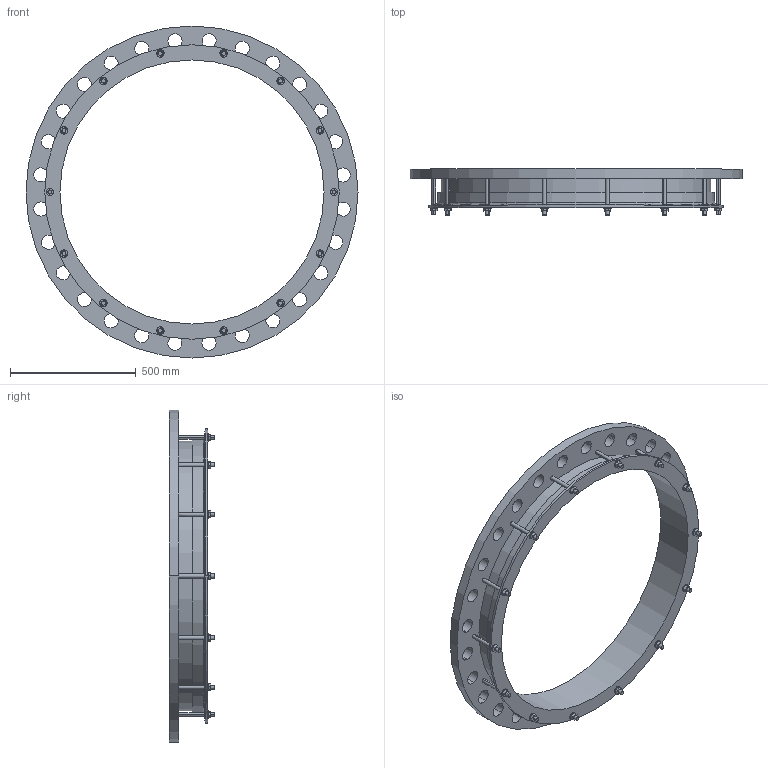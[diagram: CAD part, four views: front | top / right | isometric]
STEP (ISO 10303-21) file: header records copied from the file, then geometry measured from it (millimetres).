
FILE_DESCRIPTION((''),'2;1');
FILE_NAME('1048X1000PN25','2019-04-04T',('mfairey'),('Glynwed Pipe Systems'),'CREO PARAMETRIC BY PTC INC, 2016130','CREO PARAMETRIC BY PTC INC, 2016130','');
FILE_SCHEMA(('CONFIG_CONTROL_DESIGN'));
Length unit declared in the file: millimetre
Products named in the file (1): 1048X1000PN25
Bounding box: 1320 x 182 x 1320 mm (x, y, z)
Volume: 25544314 mm3; surface area: 2526245.2 mm2
Topology: 1 solids, 1 shells, 284 faces, 752 edges, 500 vertices
Faces by surface type: cylinder 148, plane 130, cone 4, torus 2
Entity records: 10014 total; most frequent: CARTESIAN_POINT 2568, DIRECTION 1548, ORIENTED_EDGE 1504, EDGE_CURVE 752, AXIS2_PLACEMENT_3D 572, VERTEX_POINT 500, VECTOR 404, LINE 404
